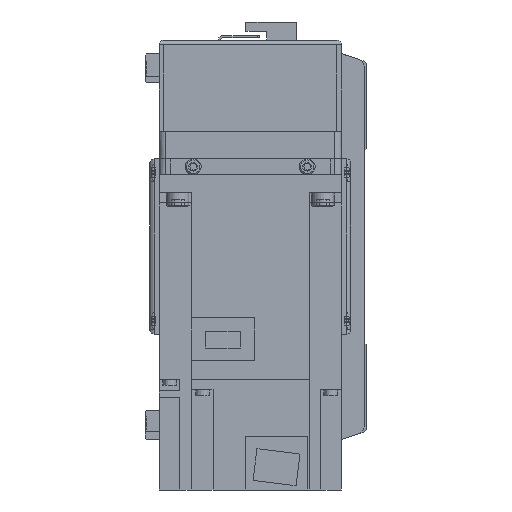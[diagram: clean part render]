
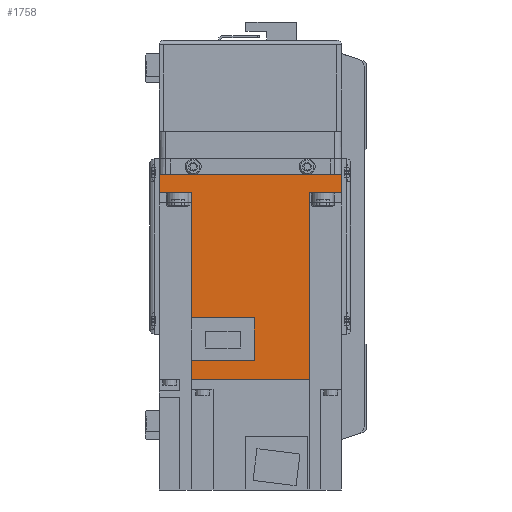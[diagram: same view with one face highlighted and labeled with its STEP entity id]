
A CAD part, left-side view. The second image highlights one B-rep face of the part: STEP entity #1758.
In plain terms, the highlighted planar face has unit normal (-1, 0, 0) as drawn and (1, 0, 0) by its records, which use the part's own axes.
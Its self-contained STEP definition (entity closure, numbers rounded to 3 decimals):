
#1758 = ADVANCED_FACE( '', ( #4443 ), #4444, .F. );
#4443 = FACE_OUTER_BOUND( '', #8371, .T. );
#4444 = PLANE( '', #8372 );
#8371 = EDGE_LOOP( '', ( #13555, #13556, #13557, #13558, #13559, #13560, #13561, #13562, #13563, #13564, #13565, #13566 ) );
#8372 = AXIS2_PLACEMENT_3D( '', #13567, #13568, #13569 );
#13555 = ORIENTED_EDGE( '', *, *, #22161, .F. );
#13556 = ORIENTED_EDGE( '', *, *, #23018, .F. );
#13557 = ORIENTED_EDGE( '', *, *, #23019, .F. );
#13558 = ORIENTED_EDGE( '', *, *, #23020, .T. );
#13559 = ORIENTED_EDGE( '', *, *, #23021, .F. );
#13560 = ORIENTED_EDGE( '', *, *, #22646, .T. );
#13561 = ORIENTED_EDGE( '', *, *, #23022, .T. );
#13562 = ORIENTED_EDGE( '', *, *, #22777, .F. );
#13563 = ORIENTED_EDGE( '', *, *, #23023, .F. );
#13564 = ORIENTED_EDGE( '', *, *, #23024, .F. );
#13565 = ORIENTED_EDGE( '', *, *, #23025, .F. );
#13566 = ORIENTED_EDGE( '', *, *, #23026, .F. );
#13567 = CARTESIAN_POINT( '', ( 40., 89.8, 40. ) );
#13568 = DIRECTION( '', ( -1., 0., 0. ) );
#13569 = DIRECTION( '', ( 0., 0., 1. ) );
#22161 = EDGE_CURVE( '', #26397, #26399, #26400, .T. );
#22646 = EDGE_CURVE( '', #27258, #27256, #27259, .T. );
#22777 = EDGE_CURVE( '', #27476, #27478, #27479, .T. );
#23018 = EDGE_CURVE( '', #27881, #26397, #27882, .T. );
#23019 = EDGE_CURVE( '', #27883, #27881, #27884, .T. );
#23020 = EDGE_CURVE( '', #27883, #27885, #27886, .T. );
#23021 = EDGE_CURVE( '', #27258, #27885, #27887, .T. );
#23022 = EDGE_CURVE( '', #27256, #27478, #27888, .T. );
#23023 = EDGE_CURVE( '', #27889, #27476, #27890, .T. );
#23024 = EDGE_CURVE( '', #27891, #27889, #27892, .T. );
#23025 = EDGE_CURVE( '', #27893, #27891, #27894, .T. );
#23026 = EDGE_CURVE( '', #26399, #27893, #27895, .T. );
#26397 = VERTEX_POINT( '', #32645 );
#26399 = VERTEX_POINT( '', #32648 );
#26400 = LINE( '', #32649, #32650 );
#27256 = VERTEX_POINT( '', #34337 );
#27258 = VERTEX_POINT( '', #34340 );
#27259 = LINE( '', #34341, #34342 );
#27476 = VERTEX_POINT( '', #34637 );
#27478 = VERTEX_POINT( '', #34640 );
#27479 = LINE( '', #34641, #34642 );
#27881 = VERTEX_POINT( '', #35298 );
#27882 = LINE( '', #35299, #35300 );
#27883 = VERTEX_POINT( '', #35301 );
#27884 = LINE( '', #35302, #35303 );
#27885 = VERTEX_POINT( '', #35304 );
#27886 = LINE( '', #35305, #35306 );
#27887 = LINE( '', #35307, #35308 );
#27888 = LINE( '', #35309, #35310 );
#27889 = VERTEX_POINT( '', #35311 );
#27890 = LINE( '', #35312, #35313 );
#27891 = VERTEX_POINT( '', #35314 );
#27892 = LINE( '', #35315, #35316 );
#27893 = VERTEX_POINT( '', #35317 );
#27894 = LINE( '', #35318, #35319 );
#27895 = LINE( '', #35320, #35321 );
#32645 = CARTESIAN_POINT( '', ( 40., 81.4, -25.95 ) );
#32648 = CARTESIAN_POINT( '', ( 40., 81.4, 1.8 ) );
#32649 = CARTESIAN_POINT( '', ( 40., 81.4, -26. ) );
#32650 = VECTOR( '', #41582, 1000. );
#34337 = CARTESIAN_POINT( '', ( 40., 0., 40. ) );
#34340 = CARTESIAN_POINT( '', ( 40., 8., 40. ) );
#34341 = CARTESIAN_POINT( '', ( 40., 89.8, 40. ) );
#34342 = VECTOR( '', #42238, 1000. );
#34637 = CARTESIAN_POINT( '', ( 40., 8., -40. ) );
#34640 = CARTESIAN_POINT( '', ( 40., 0., -40. ) );
#34641 = CARTESIAN_POINT( '', ( 40., 89.8, -40. ) );
#34642 = VECTOR( '', #42420, 1000. );
#35298 = CARTESIAN_POINT( '', ( 40., 89.8, -25.95 ) );
#35299 = CARTESIAN_POINT( '', ( 40., 158., -25.95 ) );
#35300 = VECTOR( '', #42738, 1000. );
#35301 = CARTESIAN_POINT( '', ( 40., 89.8, 25.95 ) );
#35302 = CARTESIAN_POINT( '', ( 40., 89.8, 40. ) );
#35303 = VECTOR( '', #42739, 1000. );
#35304 = CARTESIAN_POINT( '', ( 40., 8., 25.95 ) );
#35305 = CARTESIAN_POINT( '', ( 40., 158., 25.95 ) );
#35306 = VECTOR( '', #42740, 1000. );
#35307 = CARTESIAN_POINT( '', ( 40., 8., 40. ) );
#35308 = VECTOR( '', #42741, 1000. );
#35309 = CARTESIAN_POINT( '', ( 40., 0., 40. ) );
#35310 = VECTOR( '', #42742, 1000. );
#35311 = CARTESIAN_POINT( '', ( 40., 8., -25.95 ) );
#35312 = CARTESIAN_POINT( '', ( 40., 8., 40. ) );
#35313 = VECTOR( '', #42743, 1000. );
#35314 = CARTESIAN_POINT( '', ( 40., 62.8, -25.95 ) );
#35315 = CARTESIAN_POINT( '', ( 40., 158., -25.95 ) );
#35316 = VECTOR( '', #42744, 1000. );
#35317 = CARTESIAN_POINT( '', ( 40., 62.8, 1.8 ) );
#35318 = CARTESIAN_POINT( '', ( 40., 62.8, 1.8 ) );
#35319 = VECTOR( '', #42745, 1000. );
#35320 = CARTESIAN_POINT( '', ( 40., 81.4, 1.8 ) );
#35321 = VECTOR( '', #42746, 1000. );
#41582 = DIRECTION( '', ( 0., 0., 1. ) );
#42238 = DIRECTION( '', ( 0., -1., 0. ) );
#42420 = DIRECTION( '', ( 0., -1., 0. ) );
#42738 = DIRECTION( '', ( 0., -1., 0. ) );
#42739 = DIRECTION( '', ( 0., 0., -1. ) );
#42740 = DIRECTION( '', ( 0., -1., 0. ) );
#42741 = DIRECTION( '', ( 0., 0., -1. ) );
#42742 = DIRECTION( '', ( 0., 0., -1. ) );
#42743 = DIRECTION( '', ( 0., 0., -1. ) );
#42744 = DIRECTION( '', ( 0., -1., 0. ) );
#42745 = DIRECTION( '', ( 0., 0., -1. ) );
#42746 = DIRECTION( '', ( 0., -1., 0. ) );
